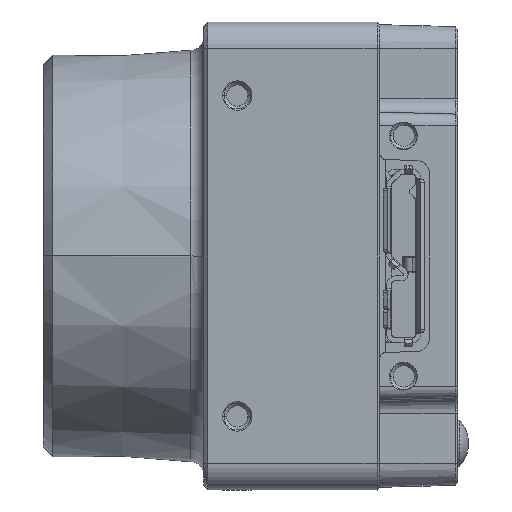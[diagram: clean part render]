
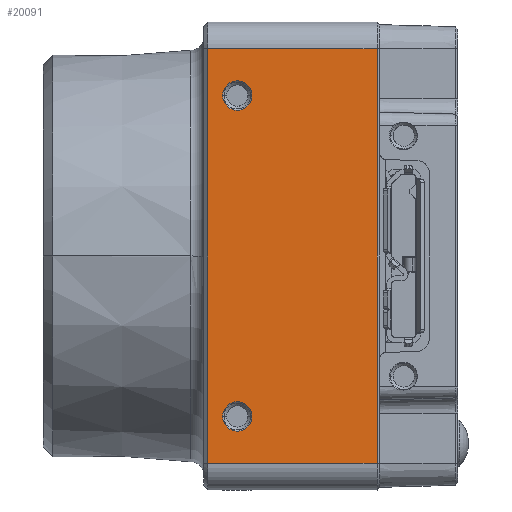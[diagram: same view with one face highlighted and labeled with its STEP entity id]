
A CAD part, left-side view. The second image highlights one B-rep face of the part: STEP entity #20091.
In plain terms, the highlighted planar face has unit normal (-1, 0, 0).
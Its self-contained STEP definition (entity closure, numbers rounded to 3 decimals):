
#990=DIRECTION('',(0.,1.,0.));
#991=VECTOR('',#990,12.65);
#992=CARTESIAN_POINT('',(-17.5,-12.95,15.5));
#993=LINE('',#992,#991);
#1055=DIRECTION('',(0.,0.,1.));
#1056=VECTOR('',#1055,31.);
#1057=CARTESIAN_POINT('',(-17.5,-12.95,
-15.5));
#1058=LINE('',#1057,#1056);
#4390=DIRECTION('',(0.,0.,-1.));
#4391=VECTOR('',#4390,31.);
#4392=CARTESIAN_POINT('',(-17.5,-0.3,
15.5));
#4393=LINE('',#4392,#4391);
#4448=DIRECTION('',(0.,1.,0.));
#4449=VECTOR('',#4448,12.65);
#4450=CARTESIAN_POINT('',(-17.5,-12.95,
-15.5));
#4451=LINE('',#4450,#4449);
#4455=CARTESIAN_POINT('',(-17.5,-2.5,-12.));
#4456=DIRECTION('',(-1.,0.,0.));
#4457=DIRECTION('',(0.,-1.,0.));
#4458=AXIS2_PLACEMENT_3D('',#4455,#4456,#4457);
#4463=CARTESIAN_POINT('',(-17.5,-2.5,-12.));
#4464=DIRECTION('',(-1.,0.,0.));
#4465=DIRECTION('',(0.,1.,0.));
#4466=AXIS2_PLACEMENT_3D('',#4463,#4464,#4465);
#4471=CARTESIAN_POINT('',(-17.5,-2.5,12.));
#4472=DIRECTION('',(-1.,0.,0.));
#4473=DIRECTION('',(0.,-1.,0.));
#4474=AXIS2_PLACEMENT_3D('',#4471,#4472,#4473);
#4479=CARTESIAN_POINT('',(-17.5,-2.5,12.));
#4480=DIRECTION('',(-1.,0.,0.));
#4481=DIRECTION('',(0.,1.,0.));
#4482=AXIS2_PLACEMENT_3D('',#4479,#4480,#4481);
#14794=CARTESIAN_POINT('',(-17.5,-12.95,
-15.5));
#14795=CARTESIAN_POINT('',(-17.5,-12.95,
15.5));
#14796=VERTEX_POINT('',#14794);
#14797=VERTEX_POINT('',#14795);
#14798=CARTESIAN_POINT('',(-17.5,-0.3,
-15.5));
#14799=VERTEX_POINT('',#14798);
#14800=CARTESIAN_POINT('',(-17.5,-0.3,
15.5));
#14801=VERTEX_POINT('',#14800);
#14802=CARTESIAN_POINT('',(-17.5,-3.6,-12.));
#14803=CARTESIAN_POINT('',(-17.5,-1.4,-12.));
#14804=VERTEX_POINT('',#14802);
#14805=VERTEX_POINT('',#14803);
#14806=CARTESIAN_POINT('',(-17.5,-3.6,12.));
#14807=CARTESIAN_POINT('',(-17.5,-1.4,12.));
#14808=VERTEX_POINT('',#14806);
#14809=VERTEX_POINT('',#14807);
#20067=CARTESIAN_POINT('',(-17.5,0.,-17.5));
#20068=DIRECTION('',(-1.,0.,0.));
#20069=DIRECTION('',(0.,0.,1.));
#20070=AXIS2_PLACEMENT_3D('',#20067,#20068,#20069);
#20071=PLANE('',#20070);
#20072=ORIENTED_EDGE('',*,*,#17486,.F.);
#20074=ORIENTED_EDGE('',*,*,#20073,.T.);
#20075=ORIENTED_EDGE('',*,*,#20023,.F.);
#20076=ORIENTED_EDGE('',*,*,#17422,.F.);
#20077=EDGE_LOOP('',(#20072,#20074,#20075,#20076));
#20078=FACE_OUTER_BOUND('',#20077,.F.);
#20080=ORIENTED_EDGE('',*,*,#20079,.T.);
#20082=ORIENTED_EDGE('',*,*,#20081,.T.);
#20083=EDGE_LOOP('',(#20080,#20082));
#20084=FACE_BOUND('',#20083,.F.);
#20086=ORIENTED_EDGE('',*,*,#20085,.T.);
#20088=ORIENTED_EDGE('',*,*,#20087,.T.);
#20089=EDGE_LOOP('',(#20086,#20088));
#20090=FACE_BOUND('',#20089,.F.);
#20091=ADVANCED_FACE('',(#20078,#20084,#20090),#20071,.T.);
#4459=CIRCLE('',#4458,1.1);
#4467=CIRCLE('',#4466,1.1);
#4475=CIRCLE('',#4474,1.1);
#4483=CIRCLE('',#4482,1.1);
#17422=EDGE_CURVE('',#14797,#14801,#993,.T.);
#17486=EDGE_CURVE('',#14796,#14797,#1058,.T.);
#20023=EDGE_CURVE('',#14801,#14799,#4393,.T.);
#20073=EDGE_CURVE('',#14796,#14799,#4451,.T.);
#20079=EDGE_CURVE('',#14804,#14805,#4459,.T.);
#20081=EDGE_CURVE('',#14805,#14804,#4467,.T.);
#20085=EDGE_CURVE('',#14808,#14809,#4475,.T.);
#20087=EDGE_CURVE('',#14809,#14808,#4483,.T.);
